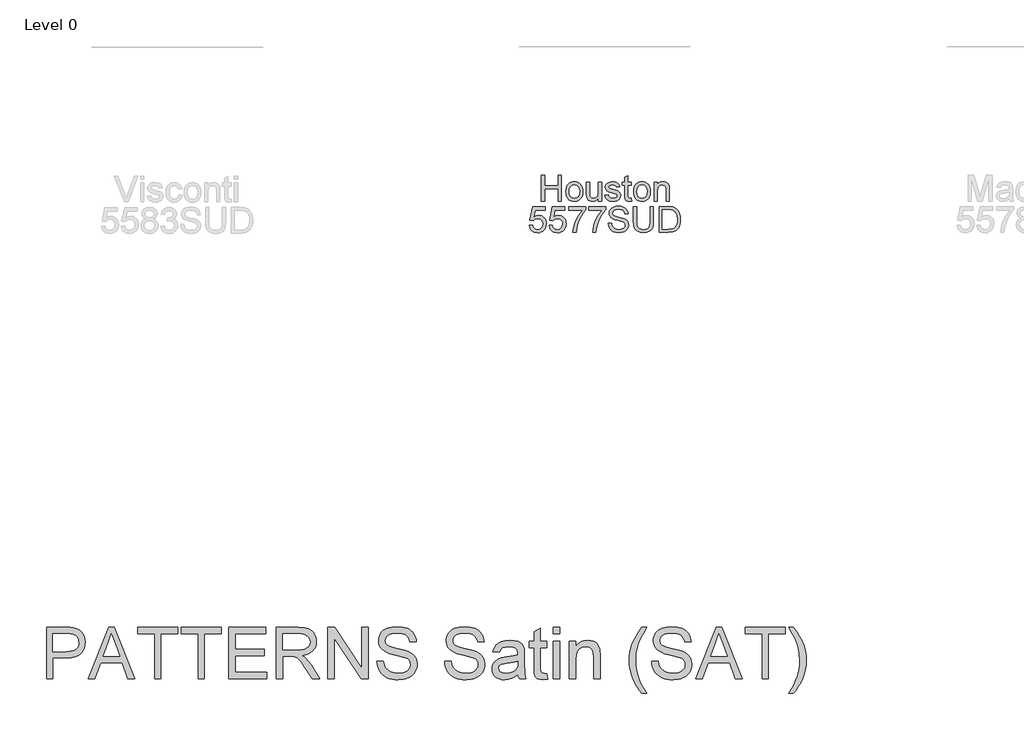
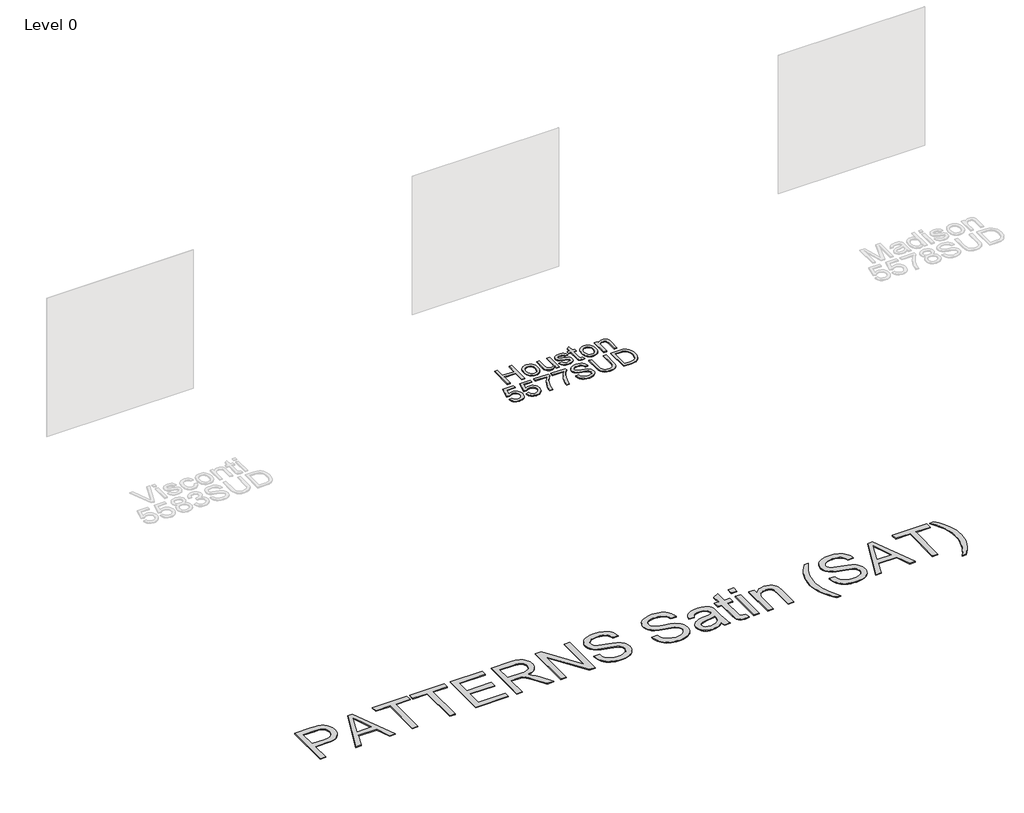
# One storey, part 7 of 29: 2 proxies.
"""IFC4 building model written with IfcOpenShell, lengths in millimetres."""

import ifcopenshell
import ifcopenshell.guid

model = None  # the IFC model being written
_history = None  # IfcOwnerHistory: only IFC2X3 demands one
_inside = {}  # id of a spatial element -> (the spatial element, [elements in it])
_under = {}  # id of a project, library or spatial element -> (it, [spatial elements below it])
_declared = {}  # id of a project -> (the project, [libraries it declares])
_typed = {}  # id of a type object -> (the type object, [elements of that type])
_made_of = {}  # id of a material, layer set ... -> (it, [elements and type objects made of it])


def new_model(schema):
    """Start an empty IFC model of exactly this schema.

    Asked for "IFC4X3", IfcOpenShell would pick the latest addendum, in which some entities
    have other attributes; the version numbers below select the first issue.
    IFC2X3 requires an IfcOwnerHistory on every rooted entity: one is made here for all.
    """
    global model, _history
    if schema == "IFC4X3":
        model = ifcopenshell.file(schema_version=(4, 3, 0, 0))
    else:
        model = ifcopenshell.file(schema=schema)
    _inside.clear()
    _under.clear()
    _declared.clear()
    _typed.clear()
    _made_of.clear()
    _history = None
    if model.schema == "IFC2X3":
        org = make("IfcOrganization", Name="unknown")
        user = make(
            "IfcPersonAndOrganization",
            ThePerson=make("IfcPerson", FamilyName="unknown"),
            TheOrganization=org,
        )
        app = make(
            "IfcApplication",
            ApplicationDeveloper=org,
            Version="unknown",
            ApplicationFullName="unknown",
            ApplicationIdentifier="unknown",
        )
        _history = make(
            "IfcOwnerHistory",
            OwningUser=user,
            OwningApplication=app,
            ChangeAction="ADDED",
            CreationDate=0,
        )
    return model


def make(cls, **values):
    """One entity of the class cls with the attributes given. An attribute that is None is left unset."""
    return model.create_entity(
        cls, **{name: value for name, value in values.items() if value is not None}
    )


def rooted(cls, **values):
    """An entity with a GlobalId (a new one), such as an element, a storey or a relation."""
    return make(cls, GlobalId=ifcopenshell.guid.new(), OwnerHistory=_history, **values)


def si_unit(unit_type, name, prefix=None):
    """IfcSIUnit, for example si_unit("LENGTHUNIT", "METRE", prefix="MILLI")."""
    return make("IfcSIUnit", UnitType=unit_type, Prefix=prefix, Name=name)


def assignment(units):
    """IfcUnitAssignment: the units of a project."""
    return None if units is None else make("IfcUnitAssignment", Units=units)


def point(xyz):
    """IfcCartesianPoint."""
    return None if xyz is None else make("IfcCartesianPoint", Coordinates=xyz)


def direction(xyz):
    """IfcDirection."""
    return None if xyz is None else make("IfcDirection", DirectionRatios=xyz)


def frame(location, z_axis=None, x_axis=None):
    """IfcAxis2Placement3D, a coordinate frame: its origin and axes. An axis left out is left unset."""
    return make(
        "IfcAxis2Placement3D",
        Location=point(location),
        Axis=direction(z_axis),
        RefDirection=direction(x_axis),
    )


def origin():
    """The frame at (0, 0, 0) with its axes left unset."""
    return frame((0.0, 0.0, 0.0))


def origin_with_axes():
    """The frame at (0, 0, 0) with the z axis (0, 0, 1) and the x axis (1, 0, 0) written out."""
    return frame((0.0, 0.0, 0.0), z_axis=(0.0, 0.0, 1.0), x_axis=(1.0, 0.0, 0.0))


def place(relative_to, where):
    """IfcLocalPlacement: puts the frame where relative to a parent placement (None: the world)."""
    return make(
        "IfcLocalPlacement", PlacementRelTo=relative_to, RelativePlacement=where
    )


def context(
    kind, dimensions, precision=None, world=None, true_north=None, identifier=None
):
    """IfcGeometricRepresentationContext, for example the 3D "Model" context."""
    return make(
        "IfcGeometricRepresentationContext",
        ContextIdentifier=identifier,
        ContextType=kind,
        CoordinateSpaceDimension=dimensions,
        Precision=precision,
        WorldCoordinateSystem=world,
        TrueNorth=true_north,
    )


def project(units=None, contexts=None):
    """IfcProject with its units and contexts."""
    return rooted(
        "IfcProject",
        Name="project",
        RepresentationContexts=contexts,
        UnitsInContext=assignment(units),
    )


def spatial(cls, under=None, at=None, **own):
    """A site, building, storey or space (cls), placed at a placement, below another one or the project."""
    s = rooted(cls, ObjectPlacement=at, **own)
    if under is not None:
        _under.setdefault(under.id(), (under, []))[1].append(s)
    return s


def polyline(points):
    """IfcPolyline through the points."""
    return make("IfcPolyline", Points=[point(p) for p in points])


def outline(outer, holes=None, kind="AREA"):
    """IfcArbitraryClosedProfileDef: a profile drawn as a closed curve; with holes, ...WithVoids."""
    if holes is None:
        return make("IfcArbitraryClosedProfileDef", ProfileType=kind, OuterCurve=outer)
    return make(
        "IfcArbitraryProfileDefWithVoids",
        ProfileType=kind,
        OuterCurve=outer,
        InnerCurves=holes,
    )


def extrude(swept, where, along, depth):
    """IfcExtrudedAreaSolid: the profile swept, set in the frame where, extruded along a direction by depth."""
    return make(
        "IfcExtrudedAreaSolid",
        SweptArea=swept,
        Position=where,
        ExtrudedDirection=direction(along),
        Depth=depth,
    )


def shape(context_of_items, identifier, shape_type, items):
    """IfcShapeRepresentation: the items that make up one representation, for example the "Body"."""
    return make(
        "IfcShapeRepresentation",
        ContextOfItems=context_of_items,
        RepresentationIdentifier=identifier,
        RepresentationType=shape_type,
        Items=items,
    )


def made_of(thing, what):
    """Note that an element or type object is made of a material, layer set ...; save() writes the relation."""
    if what is not None:
        _made_of.setdefault(what.id(), (what, []))[1].append(thing)
    return thing


def element(
    cls,
    number,
    at=None,
    inside=None,
    cuts=None,
    type_object=None,
    material=None,
    context=None,
    identifier="Body",
    shape_type=None,
    held_by="IfcProductDefinitionShape",
    body=None,
    shapes=None,
    **own,
):
    """One element of the class cls, such as IfcWall. Its Tag is "e" and its number.

    at: its placement. inside: the storey or other place that contains it. cuts: it is an
    opening in that element (IfcRelVoidsElement). A single representation is given by context,
    identifier, shape_type and body (its items); several are given by shapes. held_by: the class
    of the entity that holds the representations. save() writes the other relations.
    """
    e = rooted(cls, Tag="e%d" % number, ObjectPlacement=at, **own)
    if body is not None:
        shapes = [shape(context, identifier, shape_type, body)]
    if shapes is not None:
        e.Representation = make(held_by, Representations=shapes)
    if inside is not None:
        _inside.setdefault(inside.id(), (inside, []))[1].append(e)
    if cuts is not None:
        rooted(
            "IfcRelVoidsElement", RelatingBuildingElement=cuts, RelatedOpeningElement=e
        )
    if type_object is not None:
        _typed.setdefault(type_object.id(), (type_object, []))[1].append(e)
    return made_of(e, material)


def aggregate(whole, parts):
    """IfcRelAggregates: a whole, such as a stair, and the parts it consists of."""
    return rooted("IfcRelAggregates", RelatingObject=whole, RelatedObjects=parts)


def save(model, path):
    """Write the relations noted so far, then the file.

    IfcRelAggregates (storeys below a building ...), IfcRelContainedInSpatialStructure (elements
    in a storey), IfcRelDefinesByType, IfcRelAssociatesMaterial and IfcRelDeclares: one each for
    every whole, place, type object, material and project.
    """
    for whole, parts in _under.values():
        aggregate(whole, parts)
    for where, things in _inside.values():
        rooted(
            "IfcRelContainedInSpatialStructure",
            RelatedElements=things,
            RelatingStructure=where,
        )
    for kind, things in _typed.values():
        rooted("IfcRelDefinesByType", RelatedObjects=things, RelatingType=kind)
    for what, things in _made_of.values():
        rooted("IfcRelAssociatesMaterial", RelatedObjects=things, RelatingMaterial=what)
    for by, libraries in _declared.values():
        rooted("IfcRelDeclares", RelatingContext=by, RelatedDefinitions=libraries)
    model.write(path)


model = new_model("IFC4")

# Units and contexts
model_context = context("Model", 3, world=origin())
ifc_project = project(units=[si_unit("LENGTHUNIT", "METRE", prefix="MILLI")], contexts=[model_context])

# Site, building, storey
site = spatial("IfcSite", under=ifc_project)
building = spatial("IfcBuilding", under=site)
storey = spatial("IfcBuildingStorey", under=building, Name="Level 0", Elevation=0.0)

# Proxies
placement = place(None, origin())
element("IfcBuildingElementProxy", 1, Name="300mm Arial", ObjectType="300mm Arial", at=placement, inside=storey, context=model_context, shape_type="SweptSolid", body=[
    extrude(outline(polyline([(-5094.6626034, -17012.860494), (-5094.6626034, -16711.4915635), (-5056.991487, -16711.4915635), (-5056.991487, -16833.9226915), (-4896.8892427, -16833.9226915), (-4896.8892427, -16711.4915635), (-4859.2181264, -16711.4915635), (-4859.2181264, -17012.860494), (-4896.8892427, -17012.860494), (-4896.8892427, -16871.5938078), (-5056.991487, -16871.5938078), (-5056.991487, -17012.860494), (-5094.6626034, -17012.860494)])), origin_with_axes(), (0.0, 0.0, 1.0), 10.0),
    extrude(outline(polyline([(-4807.4203415, -16902.2015898), (-4805.383195, -16873.5389839), (-4799.2717553, -16848.8403064), (-4789.0860226, -16828.1055575), (-4774.8259967, -16811.334737), (-4760.4694019, -16800.6155754), (-4744.6228849, -16792.9590314), (-4727.2864459, -16788.3651049), (-4708.4600848, -16786.8337961), (-4687.6770514, -16788.698498), (-4668.8851792, -16794.2926036), (-4652.0844683, -16803.6161129), (-4637.2749187, -16816.669026), (-4625.1876959, -16833.0098843), (-4616.5539654, -16852.1972296), (-4611.373727, -16874.2310619), (-4609.6469809, -16899.1113811), (-4612.7004015, -16937.1687735), (-4621.8606632, -16966.1394806), (-4636.8610515, -16987.8353213), (-4657.4348521, -17004.0681143), (-4681.8714136, -17014.1940662), (-4708.4600848, -17017.5693835), (-4729.5466209, -17015.7115794), (-4748.513237, -17010.1381672), (-4765.3599332, -17000.8491468), (-4780.0867093, -16987.8445183), (-4792.0451734, -16971.3450108), (-4800.5869335, -16951.5713536), (-4805.7119895, -16928.5235466), (-4807.4203415, -16902.2015898)]), holes=[polyline([(-4769.7492252, -16902.1280134), (-4765.3898236, -16936.2214773), (-4752.3116186, -16960.5108861), (-4732.6299319, -16975.0514219), (-4708.4600848, -16979.8982672), (-4684.4006023, -16975.0238308), (-4664.7557038, -16960.4005215), (-4651.6774989, -16935.789216), (-4647.3180972, -16900.950791), (-4651.70509, -16867.8506085), (-4664.8660684, -16843.8922936), (-4684.5385581, -16829.3517577), (-4708.4600848, -16824.5049125), (-4732.6299319, -16829.3333636), (-4752.3116186, -16843.8187172), (-4765.3898236, -16868.0529436), (-4769.7492252, -16902.1280134)])]), origin_with_axes(), (0.0, 0.0, 1.0), 10.0),
    extrude(outline(polyline([(-4426.0002889, -17012.860494), (-4426.0002889, -16974.8214957), (-4439.6303168, -16993.5236966), (-4455.5044249, -17006.8824116), (-4473.6226132, -17014.8976405), (-4493.9848816, -17017.5693835), (-4512.3329961, -17015.6931853), (-4529.4119178, -17010.0645908), (-4543.7409215, -17001.6033049), (-4553.8392822, -16991.2290327), (-4565.0596831, -16963.4907302), (-4567.2669751, -16928.4683643), (-4567.2669751, -16791.5426857), (-4529.5958588, -16791.5426857), (-4529.5958588, -16910.7364521), (-4527.3149904, -16949.1433324), (-4521.8243516, -16961.9548229), (-4512.4157696, -16971.6944987), (-4499.7146437, -16977.8473251), (-4484.3463734, -16979.8982672), (-4468.0951862, -16977.8013398), (-4452.8924628, -16971.5105577), (-4440.3568838, -16961.605335), (-4432.10713, -16948.6650858), (-4427.5269992, -16930.9423707), (-4426.0002889, -16906.6897502), (-4426.0002889, -16791.5426857), (-4388.3291726, -16791.5426857), (-4388.3291726, -17012.860494), (-4426.0002889, -17012.860494)])), origin_with_axes(), (0.0, 0.0, 1.0), 10.0),
    extrude(outline(polyline([(-4350.6580563, -16946.9360404), (-4312.98694, -16942.2271509), (-4307.0456458, -16958.3403823), (-4295.5493334, -16970.1861825), (-4278.4244266, -16977.470246), (-4255.5973488, -16979.8982672), (-4233.0461824, -16977.6725811), (-4217.1904685, -16970.9955229), (-4207.8094776, -16961.3202265), (-4204.6824806, -16950.0998256), (-4207.8278717, -16940.4981055), (-4217.2640449, -16933.1772538), (-4256.0388071, -16922.4350996), (-4312.7662108, -16904.0042116), (-4327.1228057, -16894.7427824), (-4337.5246691, -16882.4831149), (-4343.8430423, -16868.0069584), (-4345.9491668, -16852.0960621), (-4344.2569096, -16837.5003439), (-4339.1801381, -16824.0266659), (-4331.1787047, -16812.2084568), (-4320.7124619, -16802.5791455), (-4296.763344, -16791.4323211), (-4264.3529402, -16786.8337961), (-4239.8336053, -16788.6824032), (-4218.5148436, -16794.2282242), (-4201.3715427, -16802.9286334), (-4189.3785896, -16814.2410048), (-4181.4323385, -16829.0022698), (-4176.4291434, -16848.0493601), (-4214.1002597, -16852.7582497), (-4218.8551345, -16840.9032524), (-4228.2637165, -16831.972917), (-4242.4179763, -16826.3719136), (-4261.4098843, -16824.5049125), (-4283.0413456, -16826.2891401), (-4297.4623198, -16831.6418232), (-4305.5741178, -16839.3673451), (-4308.2780505, -16848.2700893), (-4303.7898901, -16859.2329728), (-4289.7367979, -16867.5471059), (-4257.2896059, -16875.5669334), (-4201.9969421, -16893.2988455), (-4187.3920268, -16901.7785255), (-4176.3187788, -16913.3852025), (-4169.3382179, -16928.1556646), (-4167.0113643, -16946.1267001), (-4169.7428881, -16964.7047408), (-4177.9374596, -16982.1791356), (-4191.2823789, -16997.1795239), (-4209.4649466, -17008.3355454), (-4231.4275017, -17015.260924), (-4256.1123835, -17017.5693835), (-4294.0961995, -17013.1180114), (-4321.8161079, -16999.763895), (-4340.3205722, -16977.654187), (-4350.6580563, -16946.9360404)])), origin_with_axes(), (0.0, 0.0, 1.0), 10.0),
    extrude(outline(polyline([(-4044.5802363, -16981.4433716), (-4039.8713468, -17013.96414), (-4068.0511076, -17017.5693835), (-4086.1325077, -17016.005885), (-4099.6153828, -17011.3153896), (-4109.1435265, -17004.0865084), (-4115.3607322, -16994.9078526), (-4118.7820347, -16979.1441091), (-4119.9224689, -16952.1599648), (-4119.9224689, -16829.213802), (-4148.1758062, -16829.213802), (-4148.1758062, -16791.5426857), (-4119.9224689, -16791.5426857), (-4119.9224689, -16737.758338), (-4082.2513526, -16715.6118419), (-4082.2513526, -16791.5426857), (-4044.5802363, -16791.5426857), (-4044.5802363, -16829.213802), (-4082.2513526, -16829.213802), (-4082.2513526, -16951.0563188), (-4080.2647899, -16970.4804881), (-4073.8268549, -16977.3598814), (-4060.9877733, -16979.8982672), (-4044.5802363, -16981.4433716)])), origin_with_axes(), (0.0, 0.0, 1.0), 10.0),
    extrude(outline(polyline([(-4016.3268991, -16902.2015898), (-4014.2897525, -16873.5389839), (-4008.1783129, -16848.8403064), (-3997.9925802, -16828.1055575), (-3983.7325543, -16811.334737), (-3969.3759595, -16800.6155754), (-3953.5294425, -16792.9590314), (-3936.1930035, -16788.3651049), (-3917.3666424, -16786.8337961), (-3896.5836089, -16788.698498), (-3877.7917368, -16794.2926036), (-3860.9910259, -16803.6161129), (-3846.1814763, -16816.669026), (-3834.0942535, -16833.0098843), (-3825.4605229, -16852.1972296), (-3820.2802846, -16874.2310619), (-3818.5535385, -16899.1113811), (-3821.606959, -16937.1687735), (-3830.7672207, -16966.1394806), (-3845.7676091, -16987.8353213), (-3866.3414097, -17004.0681143), (-3890.7779712, -17014.1940662), (-3917.3666424, -17017.5693835), (-3938.4531785, -17015.7115794), (-3957.4197946, -17010.1381672), (-3974.2664907, -17000.8491468), (-3988.9932668, -16987.8445183), (-4000.951731, -16971.3450108), (-4009.493491, -16951.5713536), (-4014.6185471, -16928.5235466), (-4016.3268991, -16902.2015898)]), holes=[polyline([(-3978.6557828, -16902.1280134), (-3974.2963811, -16936.2214773), (-3961.2181762, -16960.5108861), (-3941.5364895, -16975.0514219), (-3917.3666424, -16979.8982672), (-3893.3071599, -16975.0238308), (-3873.6622614, -16960.4005215), (-3860.5840564, -16935.789216), (-3856.2246548, -16900.950791), (-3860.6116476, -16867.8506085), (-3873.772626, -16843.8922936), (-3893.4451157, -16829.3517577), (-3917.3666424, -16824.5049125), (-3941.5364895, -16829.3333636), (-3961.2181762, -16843.8187172), (-3974.2963811, -16868.0529436), (-3978.6557828, -16902.1280134)])]), origin_with_axes(), (0.0, 0.0, 1.0), 10.0),
    extrude(outline(polyline([(-3776.1735326, -17012.860494), (-3776.1735326, -16791.5426857), (-3738.5024163, -16791.5426857), (-3738.5024163, -16822.4447733), (-3725.4150144, -16806.8649708), (-3709.6972561, -16795.7365404), (-3691.3491416, -16789.0594822), (-3670.3706708, -16786.8337961), (-3651.8018271, -16788.6272209), (-3634.7964819, -16794.0074951), (-3620.614631, -16802.303234), (-3610.5162702, -16812.8430532), (-3599.222293, -16840.5445674), (-3597.2357302, -16876.964885), (-3597.2357302, -17012.860494), (-3634.9068465, -17012.860494), (-3634.9068465, -16882.0416565), (-3639.247854, -16848.7115477), (-3645.2535276, -16838.7879309), (-3654.5885332, -16831.0900002), (-3666.5538951, -16826.1511844), (-3680.4506375, -16824.5049125), (-3702.5143602, -16828.2021265), (-3721.3223272, -16839.2937687), (-3728.8386162, -16848.3482643), (-3734.207394, -16860.7228949), (-3738.5024163, -16895.4325611), (-3738.5024163, -17012.860494), (-3776.1735326, -17012.860494)])), origin_with_axes(), (0.0, 0.0, 1.0), 10.0),
    extrude(outline(polyline([(-5233.5748447, -17298.7338254), (-5195.9037284, -17294.0249358), (-5188.9875469, -17316.6404815), (-5176.9210175, -17332.8364863), (-5159.7593224, -17342.5761621), (-5137.557644, -17345.8227207), (-5110.5551055, -17341.3069693), (-5090.3215958, -17327.7597148), (-5077.6848493, -17306.7444558), (-5073.4726004, -17279.8246908), (-5077.4181348, -17254.4776213), (-5089.254738, -17235.0902402), (-5109.0743805, -17222.7845875), (-5136.9690328, -17218.6827032), (-5155.2435709, -17220.3197781), (-5170.0416242, -17225.2310027), (-5191.1948389, -17242.2271509), (-5228.8659552, -17237.5182614), (-5195.9037284, -17082.1249066), (-5049.9281527, -17082.1249066), (-5049.9281527, -17119.7960229), (-5165.4430992, -17119.7960229), (-5181.5563306, -17202.790201), (-5154.6457627, -17186.4562404), (-5126.4476077, -17181.0115869), (-5108.1017925, -17182.6992456), (-5091.2504978, -17187.7622215), (-5075.8937238, -17196.2005148), (-5062.0314704, -17208.0141254), (-5050.5558514, -17222.4810848), (-5042.3589807, -17238.8794248), (-5037.4408583, -17257.2091452), (-5035.8014841, -17277.470246), (-5041.7059901, -17315.1413624), (-5049.0866227, -17331.9351754), (-5059.4195082, -17347.3678251), (-5075.0728871, -17363.1729553), (-5093.3382282, -17374.4623341), (-5114.2155314, -17381.2359613), (-5137.7047968, -17383.4938371), (-5174.7045285, -17377.6904986), (-5190.3831992, -17370.4363255), (-5204.1810733, -17360.2804832), (-5215.6612908, -17347.7288093), (-5224.3869919, -17333.2871418), (-5233.5748447, -17298.7338254)])), origin_with_axes(), (0.0, 0.0, 1.0), 10.0),
    extrude(outline(polyline([(-5002.8392574, -17298.7338254), (-4965.1681411, -17294.0249358), (-4958.2519595, -17316.6404815), (-4946.1854301, -17332.8364863), (-4929.023735, -17342.5761621), (-4906.8220566, -17345.8227207), (-4879.8195182, -17341.3069693), (-4859.5860084, -17327.7597148), (-4846.9492619, -17306.7444558), (-4842.7370131, -17279.8246908), (-4846.6825475, -17254.4776213), (-4858.5191506, -17235.0902402), (-4878.3387931, -17222.7845875), (-4906.2334454, -17218.6827032), (-4924.5079835, -17220.3197781), (-4939.3060368, -17225.2310027), (-4960.4592515, -17242.2271509), (-4998.1303678, -17237.5182614), (-4965.1681411, -17082.1249066), (-4819.1925654, -17082.1249066), (-4819.1925654, -17119.7960229), (-4934.7075119, -17119.7960229), (-4950.8207432, -17202.790201), (-4923.9101753, -17186.4562404), (-4895.7120204, -17181.0115869), (-4877.3662051, -17182.6992456), (-4860.5149105, -17187.7622215), (-4845.1581364, -17196.2005148), (-4831.295883, -17208.0141254), (-4819.820264, -17222.4810848), (-4811.6233933, -17238.8794248), (-4806.7052709, -17257.2091452), (-4805.0658967, -17277.470246), (-4810.9704028, -17315.1413624), (-4818.3510353, -17331.9351754), (-4828.6839208, -17347.3678251), (-4844.3372997, -17363.1729553), (-4862.6026408, -17374.4623341), (-4883.479944, -17381.2359613), (-4906.9692094, -17383.4938371), (-4943.9689411, -17377.6904986), (-4959.6476119, -17370.4363255), (-4973.4454859, -17360.2804832), (-4984.9257035, -17347.7288093), (-4993.6514045, -17333.2871418), (-5002.8392574, -17298.7338254)])), origin_with_axes(), (0.0, 0.0, 1.0), 10.0),
    extrude(outline(polyline([(-4772.10367, -17119.7960229), (-4772.10367, -17082.1249066), (-4574.3303094, -17082.1249066), (-4574.3303094, -17112.5855358), (-4602.5192673, -17148.2608923), (-4630.4323136, -17193.6299393), (-4655.0528162, -17244.5540045), (-4673.3641425, -17296.8944154), (-4682.3404632, -17336.0554538), (-4687.3436583, -17378.7849475), (-4725.0147746, -17378.7849475), (-4720.9404815, -17339.9550029), (-4710.0419774, -17293.8042066), (-4692.6135679, -17244.8850983), (-4668.9495585, -17197.7502177), (-4641.3216207, -17155.1402856), (-4612.0014257, -17119.7960229), (-4772.10367, -17119.7960229)])), origin_with_axes(), (0.0, 0.0, 1.0), 10.0),
    extrude(outline(polyline([(-4541.3680826, -17119.7960229), (-4541.3680826, -17082.1249066), (-4343.594722, -17082.1249066), (-4343.594722, -17112.5855358), (-4371.7836799, -17148.2608923), (-4399.6967263, -17193.6299393), (-4424.3172288, -17244.5540045), (-4442.6285551, -17296.8944154), (-4451.6048758, -17336.0554538), (-4456.6080709, -17378.7849475), (-4494.2791872, -17378.7849475), (-4490.2048941, -17339.9550029), (-4479.30639, -17293.8042066), (-4461.8779805, -17244.8850983), (-4438.2139712, -17197.7502177), (-4410.5860333, -17155.1402856), (-4381.2658383, -17119.7960229), (-4541.3680826, -17119.7960229)])), origin_with_axes(), (0.0, 0.0, 1.0), 10.0),
    extrude(outline(polyline([(-4310.6324952, -17275.1893777), (-4272.9613789, -17275.1893777), (-4268.6387655, -17296.0942721), (-4260.8212731, -17312.8972822), (-4248.6259849, -17326.2330045), (-4231.1699843, -17336.7360355), (-4209.8328286, -17343.5510494), (-4185.9940753, -17345.8227207), (-4165.0064074, -17344.1028724), (-4146.6307018, -17338.9433274), (-4131.740678, -17330.7763471), (-4121.2100559, -17320.0341929), (-4114.9468649, -17307.700949), (-4112.8591346, -17294.7606998), (-4114.4226331, -17282.1515444), (-4119.1131285, -17271.2530403), (-4128.6412722, -17261.9548229), (-4144.7177154, -17254.1465276), (-4199.5689209, -17239.7623415), (-4235.5753712, -17230.2433949), (-4258.6139811, -17221.1843008), (-4277.3667658, -17208.510766), (-4290.6565029, -17193.1516928), (-4298.5751628, -17175.4381747), (-4301.2147162, -17155.7013056), (-4297.9497634, -17133.637583), (-4288.1549053, -17113.0637824), (-4272.0876592, -17095.6261758), (-4250.0055424, -17082.9710352), (-4223.4996447, -17075.2731044), (-4194.1610556, -17072.7071275), (-4162.3760512, -17075.3926661), (-4134.5641723, -17083.4492818), (-4111.7187004, -17096.7114277), (-4094.8329169, -17115.013557), (-4084.1459449, -17137.2152354), (-4079.8969079, -17162.1760288), (-4117.5680242, -17162.1760288), (-4124.4842057, -17139.6984389), (-4138.9051799, -17123.4748429), (-4161.4379521, -17113.6523936), (-4192.6895276, -17110.3782438), (-4224.6768671, -17113.6156054), (-4246.6210281, -17123.3276901), (-4259.3129569, -17137.6199056), (-4263.5435998, -17154.5976597), (-4260.5453616, -17169.0738162), (-4251.5506468, -17180.7172813), (-4230.2870675, -17191.1283418), (-4190.0407772, -17201.7601314), (-4148.5069, -17211.8584922), (-4123.3805597, -17220.669266), (-4101.9054482, -17234.3360821), (-4086.923454, -17251.2034716), (-4078.1218772, -17271.0874934), (-4075.1880183, -17293.8042066), (-4078.5633356, -17317.0267576), (-4088.6892875, -17338.869751), (-4105.1520068, -17357.668521), (-4127.5376262, -17371.7584014), (-4154.4573912, -17380.5599781), (-4184.5225473, -17383.4938371), (-4221.4303085, -17380.3300519), (-4251.8081642, -17370.8386964), (-4276.0056024, -17354.9829824), (-4294.372111, -17332.7261217), (-4306.162729, -17305.6132187), (-4310.6324952, -17275.1893777)])), origin_with_axes(), (0.0, 0.0, 1.0), 10.0),
    extrude(outline(polyline([(-3820.9079833, -17077.4160171), (-3783.2368669, -17077.4160171), (-3783.2368669, -17251.277048), (-3785.7936468, -17291.9923878), (-3793.4639864, -17323.3451308), (-3807.7929901, -17347.533372), (-3830.3257623, -17366.7552063), (-3861.1174853, -17379.3091794), (-3900.2233414, -17383.4938371), (-3938.4738719, -17379.8518053), (-3969.0540627, -17368.92571), (-3991.973111, -17351.0926303), (-4007.2402138, -17326.7296452), (-4015.8210613, -17294.052527), (-4018.6813439, -17251.277048), (-4018.6813439, -17077.4160171), (-3981.0102276, -17077.4160171), (-3981.0102276, -17249.9526728), (-3979.1524235, -17283.8070134), (-3973.5790113, -17307.3790523), (-3963.4806505, -17323.7038158), (-3948.0480008, -17335.8163305), (-3927.9248556, -17343.3211232), (-3903.7550086, -17345.8227207), (-3865.4400988, -17340.8747079), (-3851.0972995, -17334.6896919), (-3839.9642706, -17326.0306694), (-3831.6271449, -17313.8537754), (-3825.6720551, -17297.1151446), (-3820.9079833, -17249.9526728), (-3820.9079833, -17077.4160171)])), origin_with_axes(), (0.0, 0.0, 1.0), 10.0),
    extrude(outline(polyline([(-3717.3124134, -17378.7849475), (-3717.3124134, -17077.4160171), (-3613.3489616, -17077.4160171), (-3559.5646139, -17081.7570246), (-3535.5419196, -17090.12634), (-3515.2716217, -17103.3149095), (-3494.4311066, -17126.270746), (-3479.5870681, -17154.8183889), (-3470.7027179, -17188.406015), (-3467.7412679, -17226.4818015), (-3469.7462248, -17258.8278259), (-3475.7610954, -17287.2926953), (-3484.9213571, -17311.5269217), (-3496.3624871, -17331.1810173), (-3509.5326625, -17346.6964405), (-3523.8800603, -17358.5146496), (-3540.3519767, -17367.2794381), (-3559.8957077, -17373.6345996), (-3608.3457664, -17378.7849475), (-3717.3124134, -17378.7849475)]), holes=[polyline([(-3679.6412971, -17341.1138312), (-3612.9810796, -17341.1138312), (-3585.408324, -17339.7526678), (-3564.4942326, -17335.6691777), (-3548.712095, -17329.1024841), (-3536.535201, -17320.2917103), (-3523.447799, -17303.9853408), (-3513.6161527, -17282.8781114), (-3507.4633263, -17256.8780514), (-3505.4123842, -17225.8931903), (-3509.431495, -17184.8375597), (-3521.4888274, -17154.5240833), (-3539.303513, -17133.7019623), (-3560.5946835, -17121.1203981), (-3582.262933, -17116.5954496), (-3614.0111492, -17115.0871334), (-3679.6412971, -17115.0871334), (-3679.6412971, -17341.1138312)])]), origin_with_axes(), (0.0, 0.0, 1.0), 10.0),
])
element("IfcBuildingElementProxy", 2, Name="600mm Arial", ObjectType="600mm Arial", at=placement, inside=storey, context=model_context, shape_type="SweptSolid", body=[
    extrude(outline(polyline([(-10877.4631852, -22598.9569879), (-10877.4631852, -21996.219127), (-10654.0852378, -21996.219127), (-10602.0667237, -21997.6538668), (-10564.0277254, -22001.9580861), (-10523.8734056, -22012.6818463), (-10490.8192083, -22030.137847), (-10464.202946, -22055.1170344), (-10443.3624309, -22088.410355), (-10429.8979499, -22127.681758), (-10425.4097896, -22170.5951927), (-10428.4402175, -22207.5949244), (-10437.5315013, -22241.633206), (-10452.683641, -22272.7100375), (-10473.8966365, -22300.825419), (-10503.019095, -22324.1307434), (-10541.8996233, -22340.7774037), (-10590.5382216, -22350.7653999), (-10648.9348898, -22354.0947319), (-10802.1209526, -22354.0947319), (-10802.1209526, -22598.9569879), (-10877.4631852, -22598.9569879)]), holes=[polyline([(-10802.1209526, -22278.7524993), (-10644.5203059, -22278.7524993), (-10608.2839294, -22277.0234539), (-10577.7129356, -22271.8363178), (-10552.8073245, -22263.1910909), (-10533.5670961, -22251.0877733), (-10519.2105013, -22235.8482616), (-10508.9557907, -22217.7944527), (-10502.8029643, -22196.9263465), (-10500.7520222, -22173.2439431), (-10505.5896704, -22139.3987995), (-10520.1026151, -22110.8511567), (-10542.4882345, -22089.3668482), (-10570.9439069, -22076.7117075), (-10600.0065845, -22072.8489466), (-10646.2861395, -22071.5613596), (-10802.1209526, -22071.5613596), (-10802.1209526, -22278.7524993)])]), origin_with_axes(), (0.0, 0.0, 1.0), 10.0),
    extrude(outline(polyline([(-10392.0061044, -22598.9569879), (-10151.4112796, -21996.219127), (-10087.2526596, -21996.219127), (-9846.6578348, -22598.9569879), (-9926.2674985, -22598.9569879), (-9995.2821608, -22410.6014064), (-10243.5289312, -22410.6014064), (-10312.3964406, -22598.9569879), (-10392.0061044, -22598.9569879)]), holes=[polyline([(-10215.8642051, -22335.2591738), (-10022.799734, -22335.2591738), (-10077.0991165, -22187.0763061), (-10119.3319696, -22071.5613596), (-10156.8559331, -22174.1268599), (-10215.8642051, -22335.2591738)])]), origin_with_axes(), (0.0, 0.0, 1.0), 10.0),
    extrude(outline(polyline([(-9615.480789, -22598.9569879), (-9615.480789, -22071.5613596), (-9813.2541496, -22071.5613596), (-9813.2541496, -21996.219127), (-9342.3651958, -21996.219127), (-9342.3651958, -22071.5613596), (-9540.1385564, -22071.5613596), (-9540.1385564, -22598.9569879), (-9615.480789, -22598.9569879)])), origin_with_axes(), (0.0, 0.0, 1.0), 10.0),
    extrude(outline(polyline([(-9106.9207189, -22598.9569879), (-9106.9207189, -22071.5613596), (-9304.6940795, -22071.5613596), (-9304.6940795, -21996.219127), (-8833.8051256, -21996.219127), (-8833.8051256, -22071.5613596), (-9031.5784862, -22071.5613596), (-9031.5784862, -22598.9569879), (-9106.9207189, -22598.9569879)])), origin_with_axes(), (0.0, 0.0, 1.0), 10.0),
    extrude(outline(polyline([(-8749.0451139, -22598.9569879), (-8749.0451139, -21996.219127), (-8315.8272764, -21996.219127), (-8315.8272764, -22071.5613596), (-8673.7028813, -22071.5613596), (-8673.7028813, -22250.4991621), (-8334.6628346, -22250.4991621), (-8334.6628346, -22325.8413947), (-8673.7028813, -22325.8413947), (-8673.7028813, -22523.6147553), (-8306.4094973, -22523.6147553), (-8306.4094973, -22598.9569879), (-8749.0451139, -22598.9569879)])), origin_with_axes(), (0.0, 0.0, 1.0), 10.0),
    extrude(outline(polyline([(-8193.3961484, -22598.9569879), (-8193.3961484, -21996.219127), (-7933.6714598, -21996.219127), (-7863.8658513, -22000.284223), (-7813.0797418, -22012.4795112), (-7793.4808285, -22022.1732018), (-7775.9604485, -22034.9938893), (-7760.5186018, -22050.9415738), (-7747.1552883, -22070.0162552), (-7736.3717473, -22091.1924626), (-7728.669218, -22113.4447248), (-7724.0477005, -22136.7730418), (-7722.5071946, -22161.1774136), (-7725.0593759, -22192.1346835), (-7732.71592, -22220.5535677), (-7745.4768267, -22246.434066), (-7763.3420961, -22269.7761786), (-7786.5416544, -22289.8349444), (-7815.3054279, -22305.8654023), (-7849.6334166, -22317.8675524), (-7889.5256204, -22325.8413947), (-7864.6935857, -22342.0649907), (-7846.7041562, -22358.0678575), (-7815.8388568, -22394.672116), (-7785.635745, -22435.617382), (-7685.1303839, -22598.9569879), (-7772.6862987, -22598.9569879), (-7851.1187401, -22474.0242623), (-7907.7725674, -22391.3243898), (-7928.8338116, -22367.209725), (-7947.5773993, -22352.2553219), (-7983.4091056, -22337.9079241), (-8027.1134866, -22335.2591738), (-8118.0539158, -22335.2591738), (-8118.0539158, -22598.9569879), (-8193.3961484, -22598.9569879)]), holes=[polyline([(-8118.0539158, -22259.9169411), (-7949.4168092, -22259.9169411), (-7900.9851446, -22257.2497967), (-7863.4059988, -22249.2483633), (-7835.1158733, -22235.3792121), (-7814.5512698, -22215.1089141), (-7802.0248879, -22190.5895792), (-7797.8494272, -22163.9733168), (-7799.8405885, -22144.7054973), (-7805.8140724, -22127.2219055), (-7815.7698789, -22111.5225413), (-7829.708008, -22097.6074049), (-7847.9503564, -22086.2122601), (-7870.818821, -22078.0728709), (-7898.3134016, -22073.1892374), (-7930.4340983, -22071.5613596), (-8118.0539158, -22071.5613596), (-8118.0539158, -22259.9169411)])]), origin_with_axes(), (0.0, 0.0, 1.0), 10.0),
    extrude(outline(polyline([(-7590.6582875, -22598.9569879), (-7590.6582875, -21996.219127), (-7510.0185542, -21996.219127), (-7195.1115663, -22473.7299567), (-7195.1115663, -21996.219127), (-7119.7693337, -21996.219127), (-7119.7693337, -22598.9569879), (-7200.409067, -22598.9569879), (-7515.3160549, -22121.2990054), (-7515.3160549, -22598.9569879), (-7590.6582875, -22598.9569879)])), origin_with_axes(), (0.0, 0.0, 1.0), 10.0),
    extrude(outline(polyline([(-7016.1737639, -22391.7658482), (-6940.8315313, -22391.7658482), (-6932.1863044, -22433.575637), (-6916.5513196, -22467.1816572), (-6892.1607433, -22493.8531019), (-6857.2487419, -22514.8591638), (-6814.5744305, -22528.4891917), (-6766.8969239, -22533.0325344), (-6724.9215883, -22529.5928377), (-6688.170177, -22519.2737477), (-6658.3901295, -22502.9397872), (-6637.3288852, -22481.4554786), (-6624.8025033, -22456.7889909), (-6620.6270427, -22430.9084925), (-6623.7540396, -22405.6901817), (-6633.1350305, -22383.8931735), (-6652.1913178, -22365.2967387), (-6684.3442042, -22349.680148), (-6794.0466152, -22320.9117759), (-6866.0595157, -22301.8738827), (-6912.1367356, -22283.7556944), (-6949.642305, -22258.408625), (-6976.2217792, -22227.6904784), (-6992.0590991, -22192.2634422), (-6997.3382057, -22152.7897041), (-6995.7057294, -22130.353501), (-6990.8083003, -22108.6622588), (-6982.6459185, -22087.7159777), (-6971.2185841, -22067.5146577), (-6956.6550556, -22048.8814346), (-6939.0840918, -22032.6394445), (-6918.5056927, -22018.7886874), (-6894.9198583, -22007.3291633), (-6841.9080628, -21991.9333018), (-6783.2308845, -21986.8013479), (-6719.6608758, -21992.1724251), (-6664.0371181, -22008.2856564), (-6639.7017241, -22020.2878065), (-6618.3461743, -22034.8099483), (-6599.9704686, -22051.8520817), (-6584.5746071, -22071.4142068), (-6572.2781514, -22092.9261065), (-6563.2006632, -22115.8175636), (-6557.3421424, -22140.0885783), (-6554.7025891, -22165.7391504), (-6630.0448217, -22165.7391504), (-6635.0848051, -22141.698062), (-6643.8771847, -22120.7839706), (-6656.4219608, -22102.9968761), (-6672.7191332, -22088.3367786), (-6693.0722046, -22076.8772544), (-6717.7846776, -22068.6918801), (-6746.8565522, -22063.7806554), (-6780.2878286, -22062.1435805), (-6814.7859627, -22063.7622613), (-6844.2625075, -22068.6183037), (-6868.7174631, -22076.7117075), (-6888.1508295, -22088.042473), (-6902.9580798, -22101.6633039), (-6913.5346872, -22116.626904), (-6919.8806516, -22132.9332735), (-6921.9959731, -22150.5824122), (-6920.496854, -22165.7667415), (-6915.9994966, -22179.5347252), (-6908.5039009, -22191.8863632), (-6898.010067, -22202.8216555), (-6881.4921654, -22213.1775337), (-6855.4829084, -22223.6437764), (-6774.9903278, -22244.9073557), (-6691.9225733, -22265.1040773), (-6641.6698928, -22282.7256248), (-6598.7196698, -22310.0592571), (-6582.1143963, -22326.1265032), (-6568.7556813, -22343.794036), (-6558.4871751, -22362.969885), (-6551.1525279, -22383.5620797), (-6545.28481, -22428.9955061), (-6546.9724687, -22452.5629464), (-6552.0354447, -22475.440608), (-6560.4737379, -22497.6284909), (-6572.2873485, -22519.1265949), (-6587.2693427, -22539.1025873), (-6605.2127871, -22556.7241349), (-6626.1176814, -22571.9912377), (-6649.9840259, -22584.9038957), (-6676.1174431, -22595.1724019), (-6703.8235559, -22602.5070492), (-6763.953868, -22608.374767), (-6802.4941055, -22606.7928744), (-6837.7693903, -22602.0471967), (-6869.7797224, -22594.1377338), (-6898.5251018, -22583.0644857), (-6924.1802724, -22568.8090584), (-6946.9199783, -22551.3530577), (-6966.7442193, -22530.6964837), (-6983.6529955, -22506.8393363), (-6997.2738264, -22480.5541678), (-7007.2342314, -22452.6135302), (-7013.5342106, -22423.0174237), (-7016.1737639, -22391.7658482)])), origin_with_axes(), (0.0, 0.0, 1.0), 10.0),
    extrude(outline(polyline([(-6225.0803214, -22391.7658482), (-6149.7380888, -22391.7658482), (-6141.0928619, -22433.575637), (-6125.4578771, -22467.1816572), (-6101.0673009, -22493.8531019), (-6066.1552995, -22514.8591638), (-6023.4809881, -22528.4891917), (-5975.8034815, -22533.0325344), (-5933.8281459, -22529.5928377), (-5897.0767345, -22519.2737477), (-5867.296687, -22502.9397872), (-5846.2354428, -22481.4554786), (-5833.7090609, -22456.7889909), (-5829.5336002, -22430.9084925), (-5832.6605972, -22405.6901817), (-5842.0415881, -22383.8931735), (-5861.0978754, -22365.2967387), (-5893.2507618, -22349.680148), (-6002.9531727, -22320.9117759), (-6074.9660733, -22301.8738827), (-6121.0432932, -22283.7556944), (-6158.5488626, -22258.408625), (-6185.1283368, -22227.6904784), (-6200.9656567, -22192.2634422), (-6206.2447633, -22152.7897041), (-6204.6122869, -22130.353501), (-6199.7148579, -22108.6622588), (-6191.5524761, -22087.7159777), (-6180.1251416, -22067.5146577), (-6165.5616131, -22048.8814346), (-6147.9906493, -22032.6394445), (-6127.4122502, -22018.7886874), (-6103.8264158, -22007.3291633), (-6050.8146203, -21991.9333018), (-5992.1374421, -21986.8013479), (-5928.5674333, -21992.1724251), (-5872.9436757, -22008.2856564), (-5848.6082817, -22020.2878065), (-5827.2527319, -22034.8099483), (-5808.8770262, -22051.8520817), (-5793.4811647, -22071.4142068), (-5781.184709, -22092.9261065), (-5772.1072208, -22115.8175636), (-5766.2487, -22140.0885783), (-5763.6091467, -22165.7391504), (-5838.9513793, -22165.7391504), (-5843.9913626, -22141.698062), (-5852.7837423, -22120.7839706), (-5865.3285184, -22102.9968761), (-5881.6256907, -22088.3367786), (-5901.9787621, -22076.8772544), (-5926.6912351, -22068.6918801), (-5955.7631098, -22063.7806554), (-5989.1943861, -22062.1435805), (-6023.6925202, -22063.7622613), (-6053.1690651, -22068.6183037), (-6077.6240207, -22076.7117075), (-6097.0573871, -22088.042473), (-6111.8646374, -22101.6633039), (-6122.4412448, -22116.626904), (-6128.7872092, -22132.9332735), (-6130.9025307, -22150.5824122), (-6129.4034115, -22165.7667415), (-6124.9060542, -22179.5347252), (-6117.4104585, -22191.8863632), (-6106.9166246, -22202.8216555), (-6090.398723, -22213.1775337), (-6064.3894659, -22223.6437764), (-5983.8968854, -22244.9073557), (-5900.8291309, -22265.1040773), (-5850.5764503, -22282.7256248), (-5807.6262274, -22310.0592571), (-5791.0209539, -22326.1265032), (-5777.6622389, -22343.794036), (-5767.3937327, -22362.969885), (-5760.0590854, -22383.5620797), (-5754.1913676, -22428.9955061), (-5755.8790263, -22452.5629464), (-5760.9420022, -22475.440608), (-5769.3802955, -22497.6284909), (-5781.1939061, -22519.1265949), (-5796.1759003, -22539.1025873), (-5814.1193446, -22556.7241349), (-5835.024239, -22571.9912377), (-5858.8905834, -22584.9038957), (-5885.0240007, -22595.1724019), (-5912.7301134, -22602.5070492), (-5972.8604255, -22608.374767), (-6011.4006631, -22606.7928744), (-6046.6759479, -22602.0471967), (-6078.68628, -22594.1377338), (-6107.4316594, -22583.0644857), (-6133.08683, -22568.8090584), (-6155.8265358, -22551.3530577), (-6175.6507769, -22530.6964837), (-6192.5595531, -22506.8393363), (-6206.1803839, -22480.5541678), (-6216.140789, -22452.6135302), (-6222.4407681, -22423.0174237), (-6225.0803214, -22391.7658482)])), origin_with_axes(), (0.0, 0.0, 1.0), 10.0),
    extrude(outline(polyline([(-5368.0624255, -22542.4503134), (-5404.0596787, -22573.3156128), (-5441.1237897, -22593.5123344), (-5480.1008871, -22604.6591588), (-5521.8370995, -22608.374767), (-5555.3833389, -22606.1398839), (-5584.8001029, -22599.4352345), (-5610.0873916, -22588.2608189), (-5631.2452048, -22572.616637), (-5647.9516459, -22553.4959703), (-5659.8848181, -22531.8921002), (-5667.0447215, -22507.8050265), (-5669.4313559, -22481.2347494), (-5665.8261124, -22450.0015681), (-5655.0103817, -22421.6378662), (-5638.3269332, -22397.3576545), (-5617.1185362, -22378.3749436), (-5592.194531, -22364.0275458), (-5564.3642581, -22353.6532735), (-5499.1755686, -22342.3225081), (-5422.1410788, -22330.4031314), (-5368.5038839, -22316.4236156), (-5368.0624255, -22299.6481966), (-5373.2495616, -22266.0237823), (-5379.7334818, -22253.5709767), (-5388.81097, -22244.024439), (-5404.5011371, -22234.4962953), (-5423.6126067, -22227.6904784), (-5472.0994537, -22222.2458248), (-5516.9810571, -22225.8694625), (-5548.3246031, -22236.7403754), (-5569.698547, -22256.8451265), (-5584.6713442, -22288.1702784), (-5660.0135768, -22278.7524993), (-5646.9353719, -22237.5497158), (-5627.4192321, -22205.1761003), (-5599.6441414, -22180.417642), (-5561.7890841, -22162.0603304), (-5515.491135, -22150.6927768), (-5462.387369, -22146.9035922), (-5411.4541068, -22150.2513184), (-5371.0790578, -22160.2944968), (-5340.6368227, -22175.3960528), (-5319.5020021, -22193.9189112), (-5305.4856981, -22216.8195654), (-5296.3990128, -22245.0545085), (-5292.7201929, -22310.9789621), (-5292.7201929, -22404.7152944), (-5288.8942201, -22535.6077083), (-5283.2288374, -22567.9629298), (-5273.8846347, -22598.9569879), (-5349.2268673, -22598.9569879), (-5361.2933968, -22572.7637898), (-5368.0624255, -22542.4503134)]), holes=[polyline([(-5368.0624255, -22391.7658482), (-5418.682988, -22404.3106243), (-5489.6106367, -22414.8688375), (-5554.4314442, -22427.0825198), (-5571.2988337, -22435.433441), (-5583.7884274, -22446.9481475), (-5591.5139493, -22460.7437223), (-5594.0891233, -22475.9372487), (-5588.4789229, -22498.3412622), (-5571.6483216, -22516.6985738), (-5543.9652015, -22528.9490442), (-5505.7974445, -22533.0325344), (-5465.330425, -22528.5259799), (-5429.5722951, -22515.0063166), (-5400.5831938, -22495.0855066), (-5380.4232605, -22471.375512), (-5371.483728, -22446.9481475), (-5368.5038839, -22413.1030039), (-5368.0624255, -22391.7658482)])]), origin_with_axes(), (0.0, 0.0, 1.0), 10.0),
    extrude(outline(polyline([(-5029.0223787, -22536.1227431), (-5019.6045996, -22601.1642799), (-5075.9641213, -22608.374767), (-5112.1269214, -22605.24777), (-5139.0926717, -22595.8667791), (-5158.148959, -22581.4090167), (-5170.5833705, -22563.0517052), (-5177.4259756, -22531.5242182), (-5179.7068439, -22477.5559295), (-5179.7068439, -22231.6636039), (-5236.2135184, -22231.6636039), (-5236.2135184, -22156.3213713), (-5179.7068439, -22156.3213713), (-5179.7068439, -22048.7526759), (-5104.3646113, -22004.4596837), (-5104.3646113, -22156.3213713), (-5029.0223787, -22156.3213713), (-5029.0223787, -22231.6636039), (-5104.3646113, -22231.6636039), (-5104.3646113, -22475.3486375), (-5100.3914858, -22514.1969762), (-5087.515616, -22527.9557628), (-5076.644703, -22531.7633415), (-5061.8374527, -22533.0325344), (-5029.0223787, -22536.1227431)])), origin_with_axes(), (0.0, 0.0, 1.0), 10.0),
    extrude(outline(polyline([(-4953.6801461, -22071.5613596), (-4953.6801461, -21996.219127), (-4878.3379135, -21996.219127), (-4878.3379135, -22071.5613596), (-4953.6801461, -22071.5613596)])), origin_with_axes(), (0.0, 0.0, 1.0), 10.0),
    extrude(outline(polyline([(-4953.6801461, -22598.9569879), (-4953.6801461, -22156.3213713), (-4878.3379135, -22156.3213713), (-4878.3379135, -22598.9569879), (-4953.6801461, -22598.9569879)])), origin_with_axes(), (0.0, 0.0, 1.0), 10.0),
    extrude(outline(polyline([(-4765.3245646, -22598.9569879), (-4765.3245646, -22156.3213713), (-4689.982332, -22156.3213713), (-4689.982332, -22218.1255465), (-4663.807528, -22186.9659415), (-4632.3720115, -22164.7090808), (-4595.6757825, -22151.3549644), (-4553.718841, -22146.9035922), (-4516.5811535, -22150.4904417), (-4482.5704631, -22161.25099), (-4454.2067613, -22177.842468), (-4434.0100397, -22198.9221063), (-4420.3064354, -22224.4347227), (-4411.4220852, -22254.3251348), (-4407.4489597, -22327.1657699), (-4407.4489597, -22598.9569879), (-4482.7911923, -22598.9569879), (-4482.7911923, -22337.3193129), (-4484.9616961, -22298.3606096), (-4491.4732074, -22270.6590954), (-4503.4845545, -22250.8118618), (-4522.1545658, -22235.4160003), (-4546.0852896, -22225.5383687), (-4573.8787743, -22222.2458248), (-4596.7564359, -22224.0944319), (-4618.0062196, -22229.6402529), (-4637.6281255, -22238.8832881), (-4655.6221536, -22251.8235372), (-4670.6547316, -22269.9325285), (-4681.3922874, -22294.6817897), (-4687.8348208, -22326.0713209), (-4689.982332, -22364.1011222), (-4689.982332, -22598.9569879), (-4765.3245646, -22598.9569879)])), origin_with_axes(), (0.0, 0.0, 1.0), 10.0),
    extrude(outline(polyline([(-3917.7244477, -22768.4770113), (-3948.1390916, -22729.1228348), (-3976.1073203, -22686.549691), (-4001.6291337, -22640.7575796), (-4024.7045319, -22591.7465008), (-4043.8251986, -22540.6660858), (-4057.4828177, -22488.6659657), (-4065.6773891, -22435.7461407), (-4068.4089129, -22381.9066107), (-4066.3671678, -22334.5877891), (-4060.2419326, -22288.280643), (-4050.0332073, -22242.9851723), (-4035.7409917, -22198.7013771), (-4014.0175599, -22147.9152677), (-3987.106992, -22097.2395229), (-3955.0092879, -22046.6741426), (-3917.7244477, -21996.219127), (-3861.2177732, -21996.219127), (-3905.5475536, -22067.8457515), (-3931.7039635, -22115.5600462), (-3955.763446, -22172.2138735), (-3974.0839693, -22231.2221455), (-3988.3210026, -22306.6011663), (-3993.0666803, -22382.3480691), (-3991.0065411, -22430.6463766), (-3984.8261236, -22478.935487), (-3974.5254277, -22527.2154003), (-3960.1044535, -22575.4861166), (-3941.563201, -22623.7476358), (-3918.9016701, -22671.999958), (-3892.1198608, -22720.2430832), (-3861.2177732, -22768.4770113), (-3917.7244477, -22768.4770113)])), origin_with_axes(), (0.0, 0.0, 1.0), 10.0),
    extrude(outline(polyline([(-3804.7110988, -22391.7658482), (-3729.3688662, -22391.7658482), (-3720.7236393, -22433.575637), (-3705.0886545, -22467.1816572), (-3680.6980782, -22493.8531019), (-3645.7860769, -22514.8591638), (-3603.1117654, -22528.4891917), (-3555.4342588, -22533.0325344), (-3513.4589232, -22529.5928377), (-3476.7075119, -22519.2737477), (-3446.9274644, -22502.9397872), (-3425.8662201, -22481.4554786), (-3413.3398382, -22456.7889909), (-3409.1643776, -22430.9084925), (-3412.2913745, -22405.6901817), (-3421.6723654, -22383.8931735), (-3440.7286527, -22365.2967387), (-3472.8815391, -22349.680148), (-3582.5839501, -22320.9117759), (-3654.5968506, -22301.8738827), (-3700.6740705, -22283.7556944), (-3738.1796399, -22258.408625), (-3764.7591141, -22227.6904784), (-3780.596434, -22192.2634422), (-3785.8755406, -22152.7897041), (-3784.2430643, -22130.353501), (-3779.3456352, -22108.6622588), (-3771.1832534, -22087.7159777), (-3759.755919, -22067.5146577), (-3745.1923905, -22048.8814346), (-3727.6214267, -22032.6394445), (-3707.0430276, -22018.7886874), (-3683.4571932, -22007.3291633), (-3630.4453977, -21991.9333018), (-3571.7682194, -21986.8013479), (-3508.1982107, -21992.1724251), (-3452.574453, -22008.2856564), (-3428.239059, -22020.2878065), (-3406.8835092, -22034.8099483), (-3388.5078035, -22051.8520817), (-3373.111942, -22071.4142068), (-3360.8154863, -22092.9261065), (-3351.7379981, -22115.8175636), (-3345.8794773, -22140.0885783), (-3343.239924, -22165.7391504), (-3418.5821566, -22165.7391504), (-3423.62214, -22141.698062), (-3432.4145197, -22120.7839706), (-3444.9592957, -22102.9968761), (-3461.2564681, -22088.3367786), (-3481.6095395, -22076.8772544), (-3506.3220125, -22068.6918801), (-3535.3938872, -22063.7806554), (-3568.8251635, -22062.1435805), (-3603.3232976, -22063.7622613), (-3632.7998424, -22068.6183037), (-3657.2547981, -22076.7117075), (-3676.6881644, -22088.042473), (-3691.4954148, -22101.6633039), (-3702.0720221, -22116.626904), (-3708.4179865, -22132.9332735), (-3710.533308, -22150.5824122), (-3709.0341889, -22165.7667415), (-3704.5368315, -22179.5347252), (-3697.0412358, -22191.8863632), (-3686.5474019, -22202.8216555), (-3670.0295003, -22213.1775337), (-3644.0202433, -22223.6437764), (-3563.5276627, -22244.9073557), (-3480.4599082, -22265.1040773), (-3430.2072277, -22282.7256248), (-3387.2570047, -22310.0592571), (-3370.6517312, -22326.1265032), (-3357.2930162, -22343.794036), (-3347.02451, -22362.969885), (-3339.6898628, -22383.5620797), (-3333.8221449, -22428.9955061), (-3335.5098036, -22452.5629464), (-3340.5727796, -22475.440608), (-3349.0110728, -22497.6284909), (-3360.8246834, -22519.1265949), (-3375.8066776, -22539.1025873), (-3393.750122, -22556.7241349), (-3414.6550163, -22571.9912377), (-3438.5213608, -22584.9038957), (-3464.654778, -22595.1724019), (-3492.3608908, -22602.5070492), (-3552.4912029, -22608.374767), (-3591.0314404, -22606.7928744), (-3626.3067252, -22602.0471967), (-3658.3170573, -22594.1377338), (-3687.0624367, -22583.0644857), (-3712.7176074, -22568.8090584), (-3735.4573132, -22551.3530577), (-3755.2815542, -22530.6964837), (-3772.1903304, -22506.8393363), (-3785.8111613, -22480.5541678), (-3795.7715663, -22452.6135302), (-3802.0715455, -22423.0174237), (-3804.7110988, -22391.7658482)])), origin_with_axes(), (0.0, 0.0, 1.0), 10.0),
    extrude(outline(polyline([(-3291.0006807, -22598.9569879), (-3050.4058559, -21996.219127), (-2986.2472359, -21996.219127), (-2745.6524111, -22598.9569879), (-2825.2620748, -22598.9569879), (-2894.2767371, -22410.6014064), (-3142.5235075, -22410.6014064), (-3211.3910169, -22598.9569879), (-3291.0006807, -22598.9569879)]), holes=[polyline([(-3114.8587814, -22335.2591738), (-2921.7943103, -22335.2591738), (-2976.0936928, -22187.0763061), (-3018.3265459, -22071.5613596), (-3055.8505094, -22174.1268599), (-3114.8587814, -22335.2591738)])]), origin_with_axes(), (0.0, 0.0, 1.0), 10.0),
    extrude(outline(polyline([(-2514.4753653, -22598.9569879), (-2514.4753653, -22071.5613596), (-2712.2487259, -22071.5613596), (-2712.2487259, -21996.219127), (-2241.3597721, -21996.219127), (-2241.3597721, -22071.5613596), (-2439.1331327, -22071.5613596), (-2439.1331327, -22598.9569879), (-2514.4753653, -22598.9569879)])), origin_with_axes(), (0.0, 0.0, 1.0), 10.0),
    extrude(outline(polyline([(-2147.1819813, -22768.4770113), (-2203.6886558, -22768.4770113), (-2172.7865682, -22720.2430832), (-2146.0047589, -22671.999958), (-2123.343228, -22623.7476358), (-2104.8019755, -22575.4861166), (-2090.3810012, -22527.2154003), (-2080.0803054, -22478.935487), (-2073.8998879, -22430.6463766), (-2071.8397487, -22382.3480691), (-2076.5854264, -22307.1529893), (-2090.8224596, -22232.5465207), (-2108.8118892, -22173.4278841), (-2132.7610071, -22116.7372686), (-2159.0277815, -22068.5079391), (-2203.6886558, -21996.219127), (-2147.1819813, -21996.219127), (-2109.8971411, -22046.6741426), (-2077.799437, -22097.2395229), (-2050.8888691, -22147.9152677), (-2029.1654372, -22198.7013771), (-2014.8732217, -22242.9851723), (-2004.6644964, -22288.280643), (-1998.5392612, -22334.5877891), (-1996.4975161, -22381.9066107), (-1999.2428355, -22435.7461407), (-2007.4787936, -22488.6659657), (-2021.2053906, -22540.6660858), (-2040.4226263, -22591.7465008), (-2063.5670023, -22640.7575796), (-2089.0750202, -22686.549691), (-2116.9466798, -22729.1228348), (-2147.1819813, -22768.4770113)])), origin_with_axes(), (0.0, 0.0, 1.0), 10.0),
])

save(model, "model.ifc")
